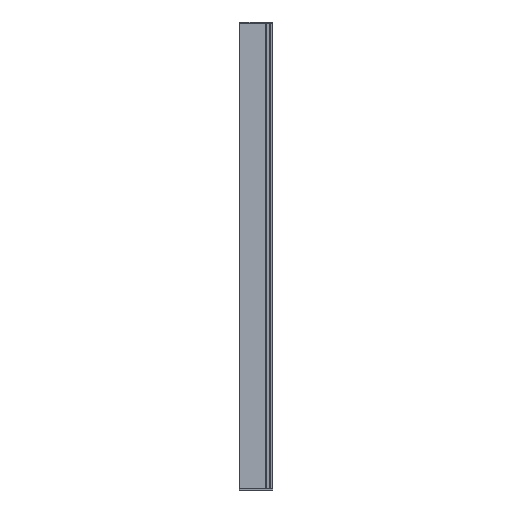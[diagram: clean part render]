
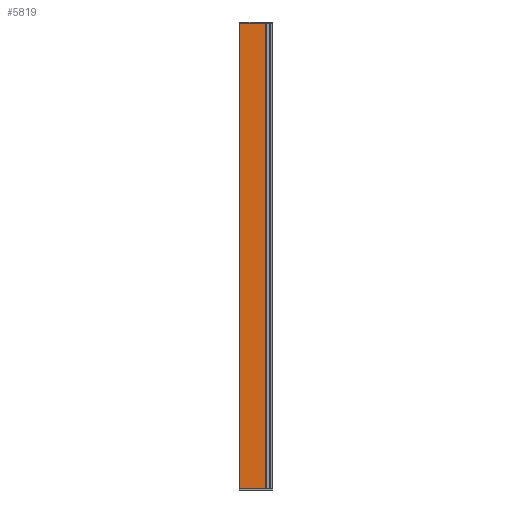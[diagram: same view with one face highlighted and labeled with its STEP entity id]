
A CAD part, left-side view. The second image highlights one B-rep face of the part: STEP entity #5819.
In plain terms, the highlighted planar face has unit normal (-1, 0, 0).
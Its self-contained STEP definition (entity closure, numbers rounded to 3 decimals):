
#1319 = LINE ( 'NONE', #26673, #11702 ) ;
#2104 = VECTOR ( 'NONE', #9184, 1000. ) ;
#2155 = CARTESIAN_POINT ( 'NONE',  ( -19., 26.417, -185. ) ) ;
#3358 = VECTOR ( 'NONE', #18553, 1000. ) ;
#4548 = ORIENTED_EDGE ( 'NONE', *, *, #10442, .T. ) ;
#4552 = PLANE ( 'NONE',  #22195 ) ;
#5392 = CARTESIAN_POINT ( 'NONE',  ( -19., 26.417, 185. ) ) ;
#5670 = EDGE_CURVE ( 'NONE', #10595, #8038, #6131, .T. ) ;
#5819 = ADVANCED_FACE ( 'NONE', ( #18930 ), #4552, .F. ) ;
#6131 = LINE ( 'NONE', #13108, #7886 ) ;
#7886 = VECTOR ( 'NONE', #15424, 1000. ) ;
#8038 = VERTEX_POINT ( 'NONE', #11160 ) ;
#8965 = CARTESIAN_POINT ( 'NONE',  ( -19., 26.417, 185. ) ) ;
#9184 = DIRECTION ( 'NONE',  ( 0., 0., -1. ) ) ;
#10442 = EDGE_CURVE ( 'NONE', #10595, #18072, #24630, .T. ) ;
#10595 = VERTEX_POINT ( 'NONE', #5392 ) ;
#11160 = CARTESIAN_POINT ( 'NONE',  ( -19., 5.9, 185. ) ) ;
#11495 = VERTEX_POINT ( 'NONE', #18271 ) ;
#11702 = VECTOR ( 'NONE', #19746, 1000. ) ;
#13097 = EDGE_CURVE ( 'NONE', #18072, #11495, #14070, .T. ) ;
#13108 = CARTESIAN_POINT ( 'NONE',  ( -19., 26.417, 185. ) ) ;
#14070 = LINE ( 'NONE', #20746, #3358 ) ;
#15304 = ORIENTED_EDGE ( 'NONE', *, *, #5670, .F. ) ;
#15424 = DIRECTION ( 'NONE',  ( 0., -1., 0. ) ) ;
#17004 = EDGE_LOOP ( 'NONE', ( #18884, #22337, #15304, #4548 ) ) ;
#17808 = DIRECTION ( 'NONE',  ( 0., 0., -1. ) ) ;
#18072 = VERTEX_POINT ( 'NONE', #2155 ) ;
#18271 = CARTESIAN_POINT ( 'NONE',  ( -19., 5.9, -185. ) ) ;
#18553 = DIRECTION ( 'NONE',  ( 0., -1., 0. ) ) ;
#18884 = ORIENTED_EDGE ( 'NONE', *, *, #13097, .T. ) ;
#18930 = FACE_OUTER_BOUND ( 'NONE', #17004, .T. ) ;
#19746 = DIRECTION ( 'NONE',  ( 0., 0., -1. ) ) ;
#20439 = CARTESIAN_POINT ( 'NONE',  ( -19., 26.417, 185. ) ) ;
#20746 = CARTESIAN_POINT ( 'NONE',  ( -19., 26.417, -185. ) ) ;
#22020 = EDGE_CURVE ( 'NONE', #8038, #11495, #1319, .T. ) ;
#22195 = AXIS2_PLACEMENT_3D ( 'NONE', #8965, #22824, #17808 ) ;
#22337 = ORIENTED_EDGE ( 'NONE', *, *, #22020, .F. ) ;
#22824 = DIRECTION ( 'NONE',  ( 1., 0., 0. ) ) ;
#24630 = LINE ( 'NONE', #20439, #2104 ) ;
#26673 = CARTESIAN_POINT ( 'NONE',  ( -19., 5.9, 185. ) ) ;
